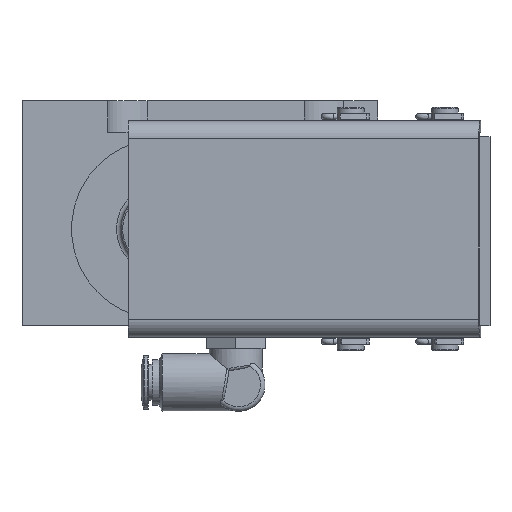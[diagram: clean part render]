
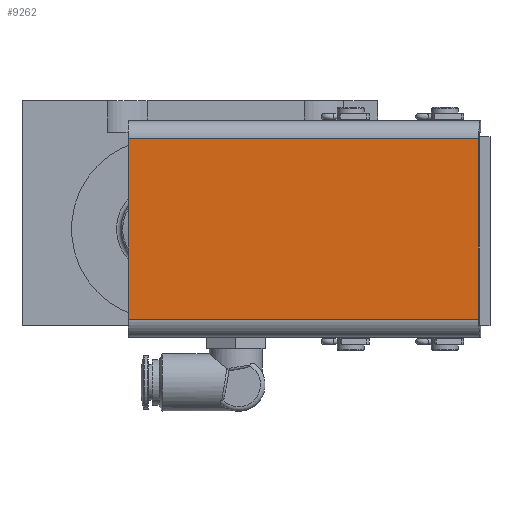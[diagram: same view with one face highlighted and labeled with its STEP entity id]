
A CAD part, left-side view. The second image highlights one B-rep face of the part: STEP entity #9262.
In plain terms, the highlighted planar face has unit normal (-0.999, 0.036, 0).
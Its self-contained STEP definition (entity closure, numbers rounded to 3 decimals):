
#935=LINE('',#21594,#1523);
#943=LINE('',#21619,#1531);
#953=LINE('',#21639,#1541);
#954=LINE('',#21641,#1542);
#1523=VECTOR('',#12435,10.);
#1531=VECTOR('',#12457,10.);
#1541=VECTOR('',#12483,10.);
#1542=VECTOR('',#12486,10.);
#1783=PLANE('',#10191);
#2215=FACE_OUTER_BOUND('',#2714,.T.);
#2714=EDGE_LOOP('',(#8358,#8359,#8360,#8361));
#4446=VERTEX_POINT('',#21591);
#4447=VERTEX_POINT('',#21593);
#4456=VERTEX_POINT('',#21616);
#4457=VERTEX_POINT('',#21618);
#5779=EDGE_CURVE('',#4447,#4446,#935,.T.);
#5793=EDGE_CURVE('',#4457,#4456,#943,.T.);
#5804=EDGE_CURVE('',#4456,#4447,#953,.T.);
#5805=EDGE_CURVE('',#4457,#4446,#954,.T.);
#8358=ORIENTED_EDGE('',*,*,#5779,.T.);
#8359=ORIENTED_EDGE('',*,*,#5805,.F.);
#8360=ORIENTED_EDGE('',*,*,#5793,.T.);
#8361=ORIENTED_EDGE('',*,*,#5804,.T.);
#9262=ADVANCED_FACE('',(#2215),#1783,.T.);
#10191=AXIS2_PLACEMENT_3D('',#21640,#12484,#12485);
#12435=DIRECTION('',(0.,0.,-1.));
#12457=DIRECTION('',(0.,0.,1.));
#12483=DIRECTION('',(0.036,0.999,0.));
#12484=DIRECTION('center_axis',(-0.999,0.036,0.));
#12485=DIRECTION('ref_axis',(-0.036,-0.999,0.));
#12486=DIRECTION('',(0.036,0.999,0.));
#21591=CARTESIAN_POINT('',(-31.242,55.433,-23.5));
#21593=CARTESIAN_POINT('',(-31.242,55.433,16.5));
#21594=CARTESIAN_POINT('',(-31.242,55.433,-23.5));
#21616=CARTESIAN_POINT('',(-34.027,-22.517,16.5));
#21618=CARTESIAN_POINT('',(-34.027,-22.517,-23.5));
#21619=CARTESIAN_POINT('',(-34.027,-22.517,-23.5));
#21639=CARTESIAN_POINT('',(-34.027,-22.517,16.5));
#21640=CARTESIAN_POINT('Origin',(-34.027,-22.517,16.5));
#21641=CARTESIAN_POINT('',(-34.027,-22.517,-23.5));
